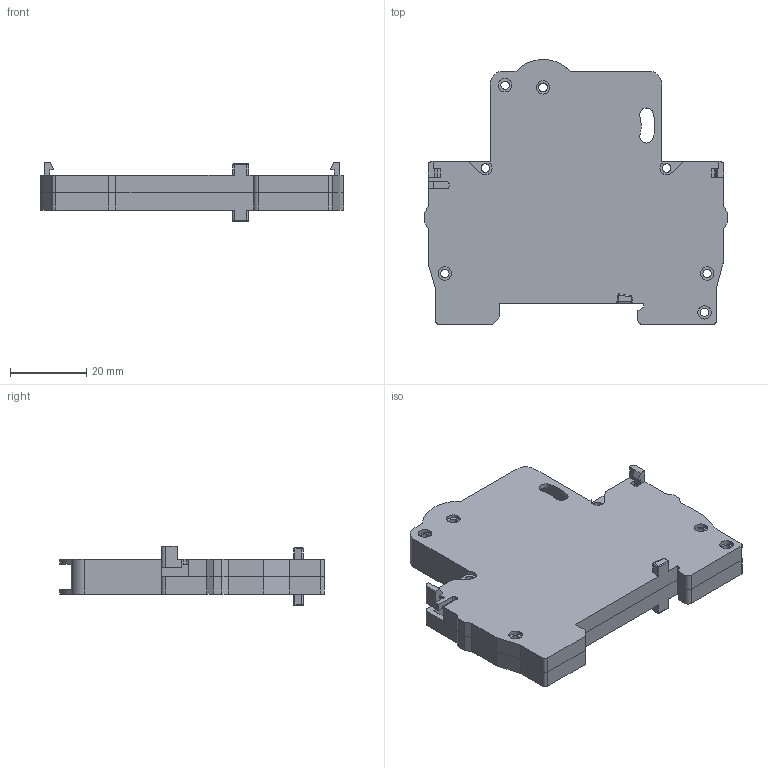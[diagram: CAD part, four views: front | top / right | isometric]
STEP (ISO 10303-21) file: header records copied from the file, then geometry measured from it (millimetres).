
FILE_DESCRIPTION((''),'2;1');
FILE_NAME('47S-HS_ASM','2025-10-31T17:21:27',('Administrator'),(''),'CREO PARAMETRIC BY PTC INC, 2018050','CREO PARAMETRIC BY PTC INC, 2018050','');
FILE_SCHEMA(('CONFIG_CONTROL_DESIGN'));
Length unit declared in the file: millimetre
Products named in the file (6): 123_STP_1_2_4_1_1_2_3_4_1; 123_STP_1_2_5_1_1_2_3_4_1; 123_STP_1_2_ASM_1_1_2_3_4_ASM_1_ASM; ASM0013_ASM_1_1_2_ASM_1_ASM; ASM0016_ASM_1_ASM; 47S-HS_ASM
Assembly tree (5 placements, depth 5):
  47S-HS_ASM
    ASM0016_ASM_1_ASM
      ASM0013_ASM_1_1_2_ASM_1_ASM
        123_STP_1_2_ASM_1_1_2_3_4_ASM_1_ASM
          123_STP_1_2_4_1_1_2_3_4_1
          123_STP_1_2_5_1_1_2_3_4_1
Bounding box: 79.63 x 69.5 x 15.72 mm (x, y, z)
Volume: 14287.5 mm3; surface area: 22324.4 mm2
Topology: 2 solids, 2 shells, 475 faces, 1350 edges, 890 vertices
Faces by surface type: plane 227, cylinder 182, torus 48, sphere 8, cone 6, bspline 4
Entity records: 15961 total; most frequent: CARTESIAN_POINT 2936, DIRECTION 2832, ORIENTED_EDGE 2684, EDGE_CURVE 1342, AXIS2_PLACEMENT_3D 1026, VERTEX_POINT 890, VECTOR 780, LINE 780
